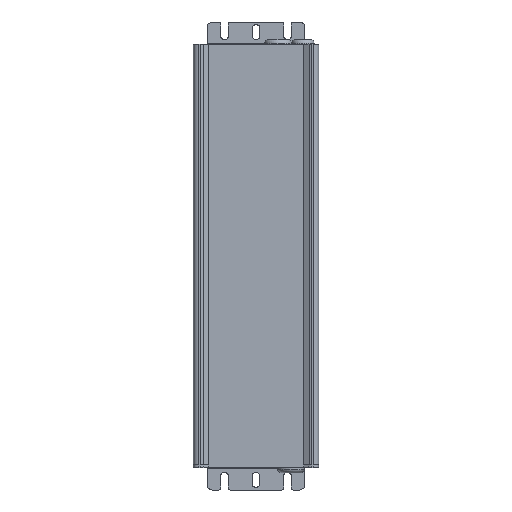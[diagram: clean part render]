
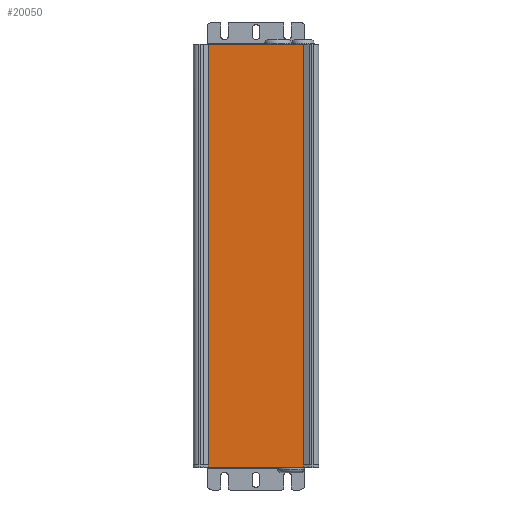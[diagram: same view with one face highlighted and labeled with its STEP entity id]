
A CAD part, left-side view. The second image highlights one B-rep face of the part: STEP entity #20050.
In plain terms, the highlighted planar face has unit normal (-1, 0, 0).
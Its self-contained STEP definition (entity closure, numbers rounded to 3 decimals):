
#7910=CARTESIAN_POINT('',(1771.873,-2450.564,
213.6));
#7920=VERTEX_POINT('',#7910);
#7950=CARTESIAN_POINT('',(1771.873,-2450.564,
213.6));
#7960=DIRECTION('',(0.,1.,0.));
#7970=VECTOR('',#7960,1.);
#7980=LINE('',#7950,#7970);
#7990=CARTESIAN_POINT('',(1771.873,-2398.564,
213.6));
#8000=VERTEX_POINT('',#7990);
#8010=EDGE_CURVE('',#7920,#8000,#7980,.T.);
#11820=CARTESIAN_POINT('',(1771.873,-2398.514,-16.6));
#11830=VERTEX_POINT('',#11820);
#11860=CARTESIAN_POINT('',(1771.873,-2398.514,-16.6));
#11870=DIRECTION('',(0.,-1.,0.));
#11880=VECTOR('',#11870,1.);
#11890=LINE('',#11860,#11880);
#11900=CARTESIAN_POINT('',(1771.873,-2450.514,-16.6));
#11910=VERTEX_POINT('',#11900);
#11920=EDGE_CURVE('',#11830,#11910,#11890,.T.);
#19430=CARTESIAN_POINT('',(1771.873,-2450.564,-15.));
#19440=VERTEX_POINT('',#19430);
#19490=CARTESIAN_POINT('',(1771.873,-2450.514,-15.));
#19500=DIRECTION('',(0.,0.,-1.));
#19510=VECTOR('',#19500,1.);
#19520=LINE('',#19490,#19510);
#19530=CARTESIAN_POINT('',(1771.873,-2450.514,-15.));
#19540=VERTEX_POINT('',#19530);
#19550=EDGE_CURVE('',#19540,#11910,#19520,.T.);
#19570=CARTESIAN_POINT('',(1771.873,-2450.514,-15.));
#19580=DIRECTION('',(0.,-1.,0.));
#19590=VECTOR('',#19580,1.);
#19600=LINE('',#19570,#19590);
#19610=EDGE_CURVE('',#19540,#19440,#19600,.T.);
#19660=CARTESIAN_POINT('',(1771.873,-2450.564,0.));
#19670=DIRECTION('',(-1.,0.,0.));
#19680=DIRECTION('',(0.,1.,0.));
#19690=AXIS2_PLACEMENT_3D('',#19660,#19670,#19680);
#19700=PLANE('',#19690);
#19710=ORIENTED_EDGE('',*,*,#19550,.F.);
#19720=ORIENTED_EDGE('',*,*,#11920,.T.);
#19730=CARTESIAN_POINT('',(1771.873,-2398.514,-15.));
#19740=DIRECTION('',(0.,0.,-1.));
#19750=VECTOR('',#19740,1.);
#19760=LINE('',#19730,#19750);
#19770=CARTESIAN_POINT('',(1771.873,-2398.52,-15.));
#19780=VERTEX_POINT('',#19770);
#19790=EDGE_CURVE('',#19780,#11830,#19760,.T.);
#19800=ORIENTED_EDGE('',*,*,#19790,.T.);
#19810=CARTESIAN_POINT('',(1771.873,-2398.564,-15.));
#19820=DIRECTION('',(0.,1.,0.));
#19830=VECTOR('',#19820,1.);
#19840=LINE('',#19810,#19830);
#19850=CARTESIAN_POINT('',(1771.873,-2398.564,-15.));
#19860=VERTEX_POINT('',#19850);
#19870=EDGE_CURVE('',#19860,#19780,#19840,.T.);
#19880=ORIENTED_EDGE('',*,*,#19870,.T.);
#19890=CARTESIAN_POINT('',(1771.873,-2398.564,
213.6));
#19900=DIRECTION('',(0.,0.,-1.));
#19910=VECTOR('',#19900,1.);
#19920=LINE('',#19890,#19910);
#19930=EDGE_CURVE('',#8000,#19860,#19920,.T.);
#19940=ORIENTED_EDGE('',*,*,#19930,.T.);
#19950=ORIENTED_EDGE('',*,*,#8010,.T.);
#19960=CARTESIAN_POINT('',(1771.873,-2450.564,
213.6));
#19970=DIRECTION('',(0.,0.,-1.));
#19980=VECTOR('',#19970,1.);
#19990=LINE('',#19960,#19980);
#20000=EDGE_CURVE('',#7920,#19440,#19990,.T.);
#20010=ORIENTED_EDGE('',*,*,#20000,.F.);
#20020=ORIENTED_EDGE('',*,*,#19610,.T.);
#20030=EDGE_LOOP('',(#20020,#20010,#19950,#19940,#19880,#19800,#19720,
#19710));
#20040=FACE_OUTER_BOUND('',#20030,.T.);
#20050=ADVANCED_FACE('',(#20040),#19700,.T.);
